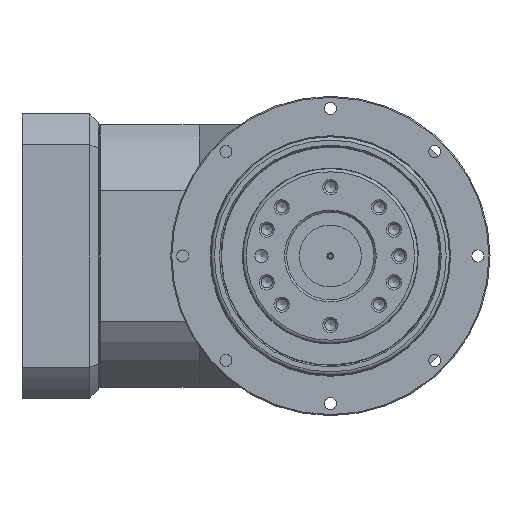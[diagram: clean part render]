
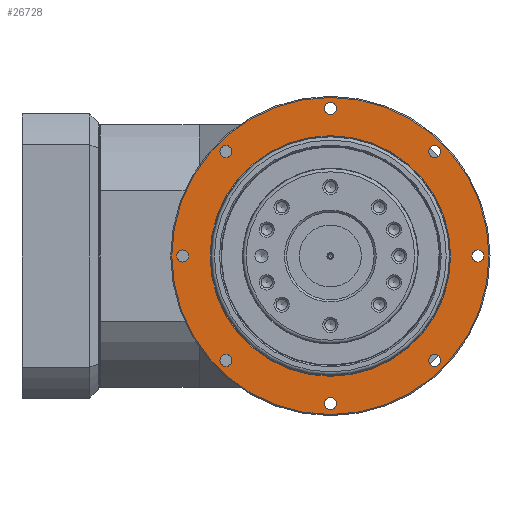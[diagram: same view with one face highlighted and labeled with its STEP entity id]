
A CAD part, left-side view. The second image highlights one B-rep face of the part: STEP entity #26728.
In plain terms, the highlighted planar face has unit normal (-1, 0, 0).
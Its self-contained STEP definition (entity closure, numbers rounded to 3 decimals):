
#196=CARTESIAN_POINT('',(-41.,72.5,0.0));
#197=VERTEX_POINT('',#196);
#198=CARTESIAN_POINT('',(-41.,0.,0.0));
#199=DIRECTION('',(-1.0,0.0,0.0));
#200=DIRECTION('',(0.0,-1.0,0.0));
#201=AXIS2_PLACEMENT_3D('',#198,#199,#200);
#202=CIRCLE('',#201,72.5);
#203=EDGE_CURVE('',#197,#197,#202,.T.);
#308=CARTESIAN_POINT('',(-41.,-47.73,-50.48));
#309=VERTEX_POINT('',#308);
#310=CARTESIAN_POINT('',(-41.,-47.73,-47.73));
#311=DIRECTION('',(-1.0,0.0,0.0));
#312=DIRECTION('',(0.0,-1.0,0.0));
#313=AXIS2_PLACEMENT_3D('',#310,#311,#312);
#314=CIRCLE('',#313,2.75);
#315=EDGE_CURVE('',#309,#309,#314,.T.);
#336=CARTESIAN_POINT('',(-41.,-67.5,-2.75));
#337=VERTEX_POINT('',#336);
#338=CARTESIAN_POINT('',(-41.,-67.5,0.));
#339=DIRECTION('',(-1.0,0.0,0.0));
#340=DIRECTION('',(0.0,-1.0,0.0));
#341=AXIS2_PLACEMENT_3D('',#338,#339,#340);
#342=CIRCLE('',#341,2.75);
#343=EDGE_CURVE('',#337,#337,#342,.T.);
#364=CARTESIAN_POINT('',(-41.,-47.73,44.98));
#365=VERTEX_POINT('',#364);
#366=CARTESIAN_POINT('',(-41.,-47.73,47.73));
#367=DIRECTION('',(-1.0,0.0,0.0));
#368=DIRECTION('',(0.0,-1.0,0.0));
#369=AXIS2_PLACEMENT_3D('',#366,#367,#368);
#370=CIRCLE('',#369,2.75);
#371=EDGE_CURVE('',#365,#365,#370,.T.);
#392=CARTESIAN_POINT('',(-41.,0.,64.75));
#393=VERTEX_POINT('',#392);
#394=CARTESIAN_POINT('',(-41.,0.,67.5));
#395=DIRECTION('',(-1.0,0.0,0.0));
#396=DIRECTION('',(0.0,-1.0,0.0));
#397=AXIS2_PLACEMENT_3D('',#394,#395,#396);
#398=CIRCLE('',#397,2.75);
#399=EDGE_CURVE('',#393,#393,#398,.T.);
#420=CARTESIAN_POINT('',(-41.,47.73,44.98));
#421=VERTEX_POINT('',#420);
#422=CARTESIAN_POINT('',(-41.,47.73,47.73));
#423=DIRECTION('',(-1.0,0.0,0.0));
#424=DIRECTION('',(0.0,-1.0,0.0));
#425=AXIS2_PLACEMENT_3D('',#422,#423,#424);
#426=CIRCLE('',#425,2.75);
#427=EDGE_CURVE('',#421,#421,#426,.T.);
#448=CARTESIAN_POINT('',(-41.,67.5,-2.75));
#449=VERTEX_POINT('',#448);
#450=CARTESIAN_POINT('',(-41.,67.5,0.));
#451=DIRECTION('',(-1.0,0.0,0.0));
#452=DIRECTION('',(0.0,-1.0,0.0));
#453=AXIS2_PLACEMENT_3D('',#450,#451,#452);
#454=CIRCLE('',#453,2.75);
#455=EDGE_CURVE('',#449,#449,#454,.T.);
#476=CARTESIAN_POINT('',(-41.,47.73,-50.48));
#477=VERTEX_POINT('',#476);
#478=CARTESIAN_POINT('',(-41.,47.73,-47.73));
#479=DIRECTION('',(-1.0,0.0,0.0));
#480=DIRECTION('',(0.0,-1.0,0.0));
#481=AXIS2_PLACEMENT_3D('',#478,#479,#480);
#482=CIRCLE('',#481,2.75);
#483=EDGE_CURVE('',#477,#477,#482,.T.);
#504=CARTESIAN_POINT('',(-41.,0.,-70.25));
#505=VERTEX_POINT('',#504);
#506=CARTESIAN_POINT('',(-41.,0.,-67.5));
#507=DIRECTION('',(-1.0,0.0,0.0));
#508=DIRECTION('',(0.0,-1.0,0.0));
#509=AXIS2_PLACEMENT_3D('',#506,#507,#508);
#510=CIRCLE('',#509,2.75);
#511=EDGE_CURVE('',#505,#505,#510,.T.);
#995=CARTESIAN_POINT('',(-41.,55.,0.0));
#996=VERTEX_POINT('',#995);
#997=CARTESIAN_POINT('',(-41.,0.,0.0));
#998=DIRECTION('',(1.0,0.0,0.0));
#999=DIRECTION('',(0.0,1.0,0.0));
#1000=AXIS2_PLACEMENT_3D('',#997,#998,#999);
#1001=CIRCLE('',#1000,55.);
#1002=EDGE_CURVE('',#996,#996,#1001,.T.);
#26693=CARTESIAN_POINT('',(-41.,55.,0.0));
#26694=DIRECTION('',(-1.0,0.0,0.0));
#26695=DIRECTION('',(0.0,0.0,1.0));
#26696=AXIS2_PLACEMENT_3D('',#26693,#26694,#26695);
#26697=PLANE('',#26696);
#26698=ORIENTED_EDGE('',*,*,#203,.T.);
#26699=EDGE_LOOP('',(#26698));
#26700=FACE_OUTER_BOUND('',#26699,.T.);
#26701=ORIENTED_EDGE('',*,*,#315,.F.);
#26702=EDGE_LOOP('',(#26701));
#26703=FACE_BOUND('',#26702,.T.);
#26704=ORIENTED_EDGE('',*,*,#343,.F.);
#26705=EDGE_LOOP('',(#26704));
#26706=FACE_BOUND('',#26705,.T.);
#26707=ORIENTED_EDGE('',*,*,#371,.F.);
#26708=EDGE_LOOP('',(#26707));
#26709=FACE_BOUND('',#26708,.T.);
#26710=ORIENTED_EDGE('',*,*,#399,.F.);
#26711=EDGE_LOOP('',(#26710));
#26712=FACE_BOUND('',#26711,.T.);
#26713=ORIENTED_EDGE('',*,*,#427,.F.);
#26714=EDGE_LOOP('',(#26713));
#26715=FACE_BOUND('',#26714,.T.);
#26716=ORIENTED_EDGE('',*,*,#455,.F.);
#26717=EDGE_LOOP('',(#26716));
#26718=FACE_BOUND('',#26717,.T.);
#26719=ORIENTED_EDGE('',*,*,#483,.F.);
#26720=EDGE_LOOP('',(#26719));
#26721=FACE_BOUND('',#26720,.T.);
#26722=ORIENTED_EDGE('',*,*,#511,.F.);
#26723=EDGE_LOOP('',(#26722));
#26724=FACE_BOUND('',#26723,.T.);
#26725=ORIENTED_EDGE('',*,*,#1002,.T.);
#26726=EDGE_LOOP('',(#26725));
#26727=FACE_BOUND('',#26726,.T.);
#26728=ADVANCED_FACE('',(#26700,#26703,#26706,#26709,#26712,#26715,#26718,#26721,#26724,#26727),#26697,.T.);
